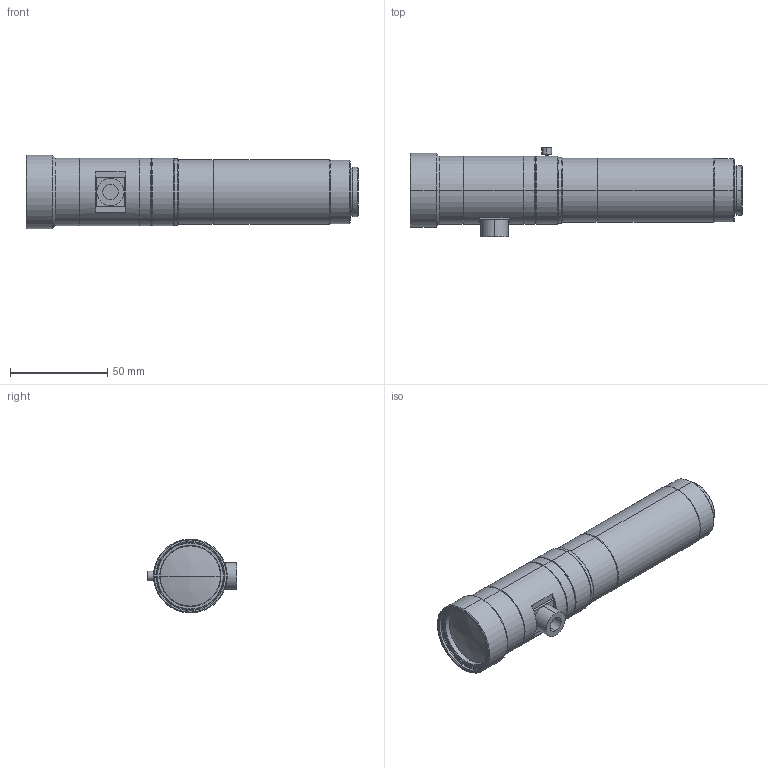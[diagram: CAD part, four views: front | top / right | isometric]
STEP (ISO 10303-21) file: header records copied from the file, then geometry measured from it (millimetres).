
FILE_DESCRIPTION (( 'STEP AP203' ), '1' );
FILE_NAME ('VS-THV2-110CO_S.STEP', '2016-06-13T01:32:50', ( 'miura_vst' ), ( '' ), 'SwSTEP 2.0', 'SolidWorks 2016', '' );
FILE_SCHEMA (( 'CONFIG_CONTROL_DESIGN' ));
Length unit declared in the file: millimetre
Products named in the file (1): VS-THV2-110CO_S
Bounding box: 170.98 x 46.3 x 38 mm (x, y, z)
Volume: 99562.6 mm3; surface area: 31263.7 mm2
Topology: 2 solids, 2 shells, 166 faces, 334 edges, 194 vertices
Faces by surface type: cone 76, cylinder 56, plane 30, sphere 4
Entity records: 4401 total; most frequent: DIRECTION 850, CARTESIAN_POINT 727, ORIENTED_EDGE 668, AXIS2_PLACEMENT_3D 351, EDGE_CURVE 334, VERTEX_POINT 194, EDGE_LOOP 190, CIRCLE 184
